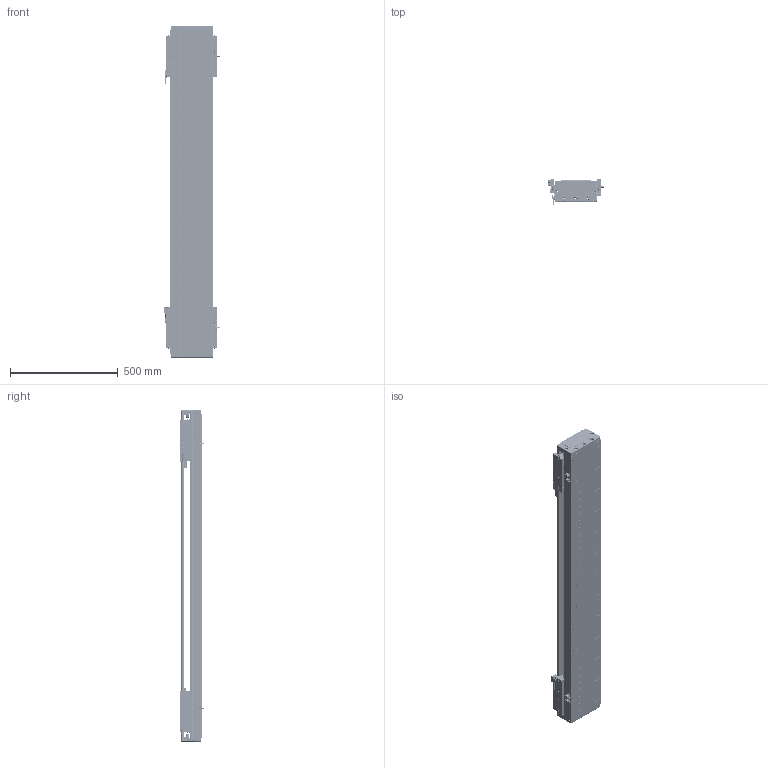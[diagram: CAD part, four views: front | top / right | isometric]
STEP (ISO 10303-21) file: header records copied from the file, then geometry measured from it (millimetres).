
FILE_DESCRIPTION (( 'STEP AP203' ), '1' );
FILE_NAME ('DA-C195-2-C2-T1040-C010-0.2 眻盄萇儂.STEP', '2025-08-14T02:01:24', ( '' ), ( '' ), 'SwSTEP 2.0', 'SolidWorks 2019', '' );
FILE_SCHEMA (( 'CONFIG_CONTROL_DESIGN' ));
Length unit declared in the file: millimetre
Products named in the file (16): 66156-0001-003-00 裔啣; DKW-KGZ-ZJ-00 中间光电开关支架; LMT黍杅芛; DA95-HXJ-00 遣喳砎蝶; DA-C195-2-C2-T1040-C010-0.2 眻盄萇儂; DKW168-HXJ-ZJ-00 笢潔滅袉砎蝶; DKW-GYP-ZJ-00 笢潔嫖萇覜茼え; IU-CU195-L 菁釱絳寢; PM-T45ㄗ侂狟ㄘ; MS200 棠掑喜S315-T240; CU195-C2賑輸-俋楷; DA195-DG-H-00  端盖（压铸镂空版）; 66156-0001-005-00 光电感应片(默认); PM-Y65嫖萇羲壽郪璃; 葩璃 DA95-GT-T-00; IU-CU195-L-00 菁釱(L1500)
Assembly tree (28 placements, depth 3):
  DA-C195-2-C2-T1040-C010-0.2 眻盄萇儂
    IU-CU195-L 菁釱絳寢
      IU-CU195-L-00 菁釱(L1500)
      葩璃 DA95-GT-T-00  x4
    LMT黍杅芛  x2
    MS200 棠掑喜S315-T240
    PM-T45ㄗ侂狟ㄘ  x4
    66156-0001-005-00 光电感应片(默认)  x2
    DA195-DG-H-00  端盖（压铸镂空版）  x2
    DA95-HXJ-00 遣喳砎蝶  x4
    PM-Y65嫖萇羲壽郪璃
    66156-0001-003-00 裔啣
    DKW168-HXJ-ZJ-00 笢潔滅袉砎蝶
    DKW-GYP-ZJ-00 笢潔嫖萇覜茼え
    DKW-KGZ-ZJ-00 中间光电开关支架
    CU195-C2賑輸-俋楷  x2
Bounding box: 258.2 x 115.6 x 1540 mm (x, y, z)
Volume: 11597158.5 mm3; surface area: 3251810.3 mm2
Topology: 106 solids, 242 shells, 8028 faces, 20352 edges, 12403 vertices
Faces by surface type: cylinder 3346, plane 2866, cone 946, bspline 718, torus 80, sphere 72
Entity records: 163817 total; most frequent: CARTESIAN_POINT 50796, ORIENTED_EDGE 23706, DIRECTION 22386, EDGE_CURVE 11853, AXIS2_PLACEMENT_3D 8183, VERTEX_POINT 7518, LINE 6020, VECTOR 6020
